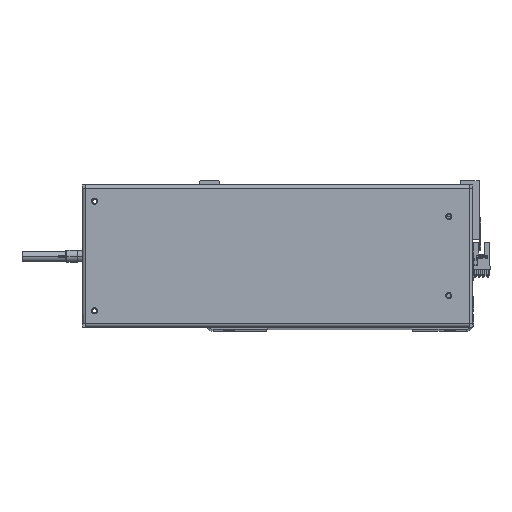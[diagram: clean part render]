
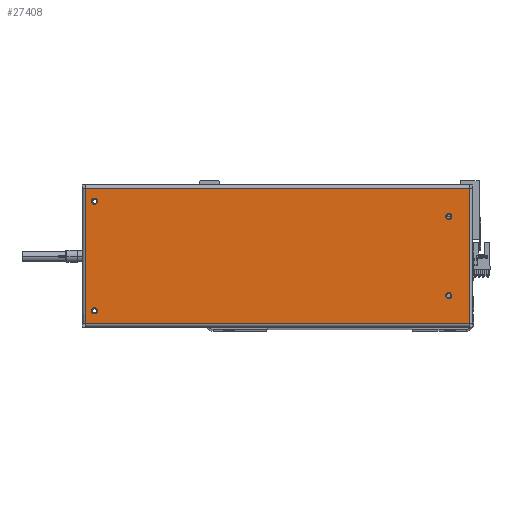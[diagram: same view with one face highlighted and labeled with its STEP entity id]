
A CAD part, top view. The second image highlights one B-rep face of the part: STEP entity #27408.
In plain terms, the highlighted planar face has unit normal (0, 0, 1).
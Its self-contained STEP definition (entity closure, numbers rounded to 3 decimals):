
#108 = DIRECTION ( 'NONE',  ( 1., 0., 0. ) ) ;
#187 = VERTEX_POINT ( 'NONE', #20007 ) ;
#314 = CARTESIAN_POINT ( 'NONE',  ( -140.5, -32.5, 0. ) ) ;
#571 = EDGE_CURVE ( 'NONE', #15713, #31294, #32317, .T. ) ;
#615 = AXIS2_PLACEMENT_3D ( 'NONE', #17900, #2815, #108 ) ;
#1448 = CARTESIAN_POINT ( 'NONE',  ( 153., -45., 0. ) ) ;
#2400 = DIRECTION ( 'NONE',  ( 0., 0., -1. ) ) ;
#2815 = DIRECTION ( 'NONE',  ( 0., 0., 1. ) ) ;
#2946 = CARTESIAN_POINT ( 'NONE',  ( 150.5, 45., 0. ) ) ;
#3092 = EDGE_LOOP ( 'NONE', ( #4518, #15900 ) ) ;
#3202 = DIRECTION ( 'NONE',  ( 0., 0., 1. ) ) ;
#4112 = ORIENTED_EDGE ( 'NONE', *, *, #571, .F. ) ;
#4518 = ORIENTED_EDGE ( 'NONE', *, *, #31325, .F. ) ;
#4756 = CARTESIAN_POINT ( 'NONE',  ( -140.5, -32.5, 0. ) ) ;
#5032 = CARTESIAN_POINT ( 'NONE',  ( -157.7, -55.6, 0. ) ) ;
#5199 = FACE_BOUND ( 'NONE', #3092, .T. ) ;
#5205 = CARTESIAN_POINT ( 'NONE',  ( -140.5, 32.5, 0. ) ) ;
#5340 = VECTOR ( 'NONE', #8153, 1000. ) ;
#6225 = AXIS2_PLACEMENT_3D ( 'NONE', #20719, #2400, #11493 ) ;
#6597 = CARTESIAN_POINT ( 'NONE',  ( 148., -45., 0. ) ) ;
#7518 = EDGE_CURVE ( 'NONE', #18014, #35742, #10382, .T. ) ;
#7898 = CARTESIAN_POINT ( 'NONE',  ( 157.7, 55.6, 0. ) ) ;
#8153 = DIRECTION ( 'NONE',  ( -1., 0., 0. ) ) ;
#8229 = DIRECTION ( 'NONE',  ( 1., 0., 0. ) ) ;
#8882 = AXIS2_PLACEMENT_3D ( 'NONE', #34696, #10190, #34559 ) ;
#9569 = EDGE_CURVE ( 'NONE', #12762, #26134, #11305, .T. ) ;
#9667 = DIRECTION ( 'NONE',  ( 0., 0., 1. ) ) ;
#9875 = ORIENTED_EDGE ( 'NONE', *, *, #13498, .F. ) ;
#10166 = EDGE_LOOP ( 'NONE', ( #18346, #17986 ) ) ;
#10190 = DIRECTION ( 'NONE',  ( 0., 0., 1. ) ) ;
#10382 = CIRCLE ( 'NONE', #25624, 2.5 ) ;
#10503 = CIRCLE ( 'NONE', #8882, 2.5 ) ;
#11209 = ORIENTED_EDGE ( 'NONE', *, *, #16156, .F. ) ;
#11225 = AXIS2_PLACEMENT_3D ( 'NONE', #17079, #17206, #38269 ) ;
#11305 = CIRCLE ( 'NONE', #22353, 2.5 ) ;
#11493 = DIRECTION ( 'NONE',  ( -1., 0., 0. ) ) ;
#11710 = AXIS2_PLACEMENT_3D ( 'NONE', #5205, #35333, #8229 ) ;
#11837 = VERTEX_POINT ( 'NONE', #24112 ) ;
#12086 = CARTESIAN_POINT ( 'NONE',  ( -157.6, 55.6, 0. ) ) ;
#12762 = VERTEX_POINT ( 'NONE', #31048 ) ;
#12792 = ORIENTED_EDGE ( 'NONE', *, *, #38372, .T. ) ;
#12934 = VECTOR ( 'NONE', #19884, 1000. ) ;
#13054 = ORIENTED_EDGE ( 'NONE', *, *, #13109, .T. ) ;
#13109 = EDGE_CURVE ( 'NONE', #11837, #28362, #39313, .T. ) ;
#13308 = FACE_BOUND ( 'NONE', #31062, .T. ) ;
#13398 = EDGE_CURVE ( 'NONE', #22608, #187, #36459, .T. ) ;
#13498 = EDGE_CURVE ( 'NONE', #31294, #15713, #23515, .T. ) ;
#15604 = CARTESIAN_POINT ( 'NONE',  ( 148., 45., 0. ) ) ;
#15713 = VERTEX_POINT ( 'NONE', #25916 ) ;
#15718 = DIRECTION ( 'NONE',  ( 1., 0., 0. ) ) ;
#15900 = ORIENTED_EDGE ( 'NONE', *, *, #25593, .F. ) ;
#16156 = EDGE_CURVE ( 'NONE', #26134, #12762, #10503, .T. ) ;
#16453 = DIRECTION ( 'NONE',  ( 1., 0., 0. ) ) ;
#16581 = EDGE_LOOP ( 'NONE', ( #38868, #12792, #13054, #26109 ) ) ;
#16633 = FACE_BOUND ( 'NONE', #10166, .T. ) ;
#17079 = CARTESIAN_POINT ( 'NONE',  ( -140.5, 32.5, 0. ) ) ;
#17206 = DIRECTION ( 'NONE',  ( 0., 0., 1. ) ) ;
#17411 = ORIENTED_EDGE ( 'NONE', *, *, #9569, .F. ) ;
#17827 = DIRECTION ( 'NONE',  ( 0., -1., 0. ) ) ;
#17900 = CARTESIAN_POINT ( 'NONE',  ( 150.5, -45., 0. ) ) ;
#17986 = ORIENTED_EDGE ( 'NONE', *, *, #7518, .F. ) ;
#18014 = VERTEX_POINT ( 'NONE', #6597 ) ;
#18260 = LINE ( 'NONE', #7898, #5340 ) ;
#18346 = ORIENTED_EDGE ( 'NONE', *, *, #21271, .F. ) ;
#19556 = AXIS2_PLACEMENT_3D ( 'NONE', #4756, #28943, #16453 ) ;
#19884 = DIRECTION ( 'NONE',  ( 0., 1., 0. ) ) ;
#20007 = CARTESIAN_POINT ( 'NONE',  ( -157.6, -55.6, 0. ) ) ;
#20072 = LINE ( 'NONE', #5032, #22028 ) ;
#20160 = CARTESIAN_POINT ( 'NONE',  ( -143., -32.5, 0. ) ) ;
#20719 = CARTESIAN_POINT ( 'NONE',  ( 157.7, 58.5, 0. ) ) ;
#21147 = AXIS2_PLACEMENT_3D ( 'NONE', #314, #9667, #21744 ) ;
#21271 = EDGE_CURVE ( 'NONE', #35742, #18014, #34596, .T. ) ;
#21744 = DIRECTION ( 'NONE',  ( 1., 0., 0. ) ) ;
#21952 = FACE_OUTER_BOUND ( 'NONE', #16581, .T. ) ;
#22028 = VECTOR ( 'NONE', #38248, 1000. ) ;
#22125 = EDGE_CURVE ( 'NONE', #28362, #22608, #18260, .T. ) ;
#22353 = AXIS2_PLACEMENT_3D ( 'NONE', #2946, #3202, #24629 ) ;
#22608 = VERTEX_POINT ( 'NONE', #36569 ) ;
#23515 = CIRCLE ( 'NONE', #21147, 2.5 ) ;
#23907 = CARTESIAN_POINT ( 'NONE',  ( -138., 32.5, 0. ) ) ;
#24112 = CARTESIAN_POINT ( 'NONE',  ( 157.6, -55.6, 0. ) ) ;
#24629 = DIRECTION ( 'NONE',  ( 1., 0., 0. ) ) ;
#25593 = EDGE_CURVE ( 'NONE', #27606, #33493, #33041, .T. ) ;
#25624 = AXIS2_PLACEMENT_3D ( 'NONE', #36640, #36790, #15718 ) ;
#25916 = CARTESIAN_POINT ( 'NONE',  ( -138., -32.5, 0. ) ) ;
#26109 = ORIENTED_EDGE ( 'NONE', *, *, #22125, .T. ) ;
#26134 = VERTEX_POINT ( 'NONE', #15604 ) ;
#26745 = FACE_BOUND ( 'NONE', #30934, .T. ) ;
#27048 = PLANE ( 'NONE',  #6225 ) ;
#27408 = ADVANCED_FACE ( 'NONE', ( #13308, #5199, #16633, #26745, #21952 ), #27048, .F. ) ;
#27606 = VERTEX_POINT ( 'NONE', #34507 ) ;
#28321 = VECTOR ( 'NONE', #17827, 1000. ) ;
#28362 = VERTEX_POINT ( 'NONE', #37934 ) ;
#28943 = DIRECTION ( 'NONE',  ( 0., 0., 1. ) ) ;
#30934 = EDGE_LOOP ( 'NONE', ( #17411, #11209 ) ) ;
#31048 = CARTESIAN_POINT ( 'NONE',  ( 153., 45., 0. ) ) ;
#31062 = EDGE_LOOP ( 'NONE', ( #4112, #9875 ) ) ;
#31294 = VERTEX_POINT ( 'NONE', #20160 ) ;
#31325 = EDGE_CURVE ( 'NONE', #33493, #27606, #34640, .T. ) ;
#31809 = CARTESIAN_POINT ( 'NONE',  ( 157.6, -55.6, 0. ) ) ;
#32317 = CIRCLE ( 'NONE', #19556, 2.5 ) ;
#33041 = CIRCLE ( 'NONE', #11225, 2.5 ) ;
#33493 = VERTEX_POINT ( 'NONE', #23907 ) ;
#34507 = CARTESIAN_POINT ( 'NONE',  ( -143., 32.5, 0. ) ) ;
#34559 = DIRECTION ( 'NONE',  ( 1., 0., 0. ) ) ;
#34596 = CIRCLE ( 'NONE', #615, 2.5 ) ;
#34640 = CIRCLE ( 'NONE', #11710, 2.5 ) ;
#34696 = CARTESIAN_POINT ( 'NONE',  ( 150.5, 45., 0. ) ) ;
#35333 = DIRECTION ( 'NONE',  ( 0., 0., 1. ) ) ;
#35742 = VERTEX_POINT ( 'NONE', #1448 ) ;
#36459 = LINE ( 'NONE', #12086, #28321 ) ;
#36569 = CARTESIAN_POINT ( 'NONE',  ( -157.6, 55.6, 0. ) ) ;
#36640 = CARTESIAN_POINT ( 'NONE',  ( 150.5, -45., 0. ) ) ;
#36790 = DIRECTION ( 'NONE',  ( 0., 0., 1. ) ) ;
#37934 = CARTESIAN_POINT ( 'NONE',  ( 157.6, 55.6, 0. ) ) ;
#38248 = DIRECTION ( 'NONE',  ( 1., 0., 0. ) ) ;
#38269 = DIRECTION ( 'NONE',  ( 1., 0., 0. ) ) ;
#38372 = EDGE_CURVE ( 'NONE', #187, #11837, #20072, .T. ) ;
#38868 = ORIENTED_EDGE ( 'NONE', *, *, #13398, .T. ) ;
#39313 = LINE ( 'NONE', #31809, #12934 ) ;
